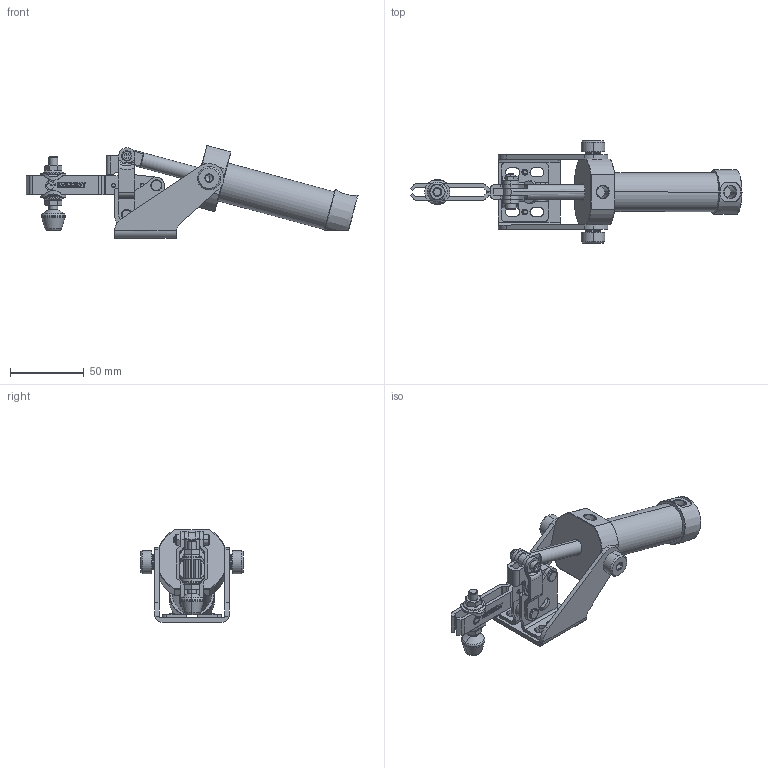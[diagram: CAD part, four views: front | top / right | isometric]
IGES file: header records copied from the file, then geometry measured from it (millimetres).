
Start section: 3D InterOp IGES (v. 2020 1.0.1), Spatial Corp. Copyright (c) 1999-2017.
Global section: file name: 611-2.igs; native system: Spatial Corp.; preprocessor: 3D InterOp ACIS/IGES; author: TraceParts; organization: TraceParts S.A.; date: 20231130.144627; units: millimetre
Bounding box: 225.54 x 69.5 x 62.98 mm (x, y, z)
Surface area: 61397 mm2 (no closed solid volume)
Topology: 0 solids, 0 shells, 1490 faces, 9724 edges, 9703 vertices
Faces by surface type: revolution 875, extrusion 580, bspline 35
